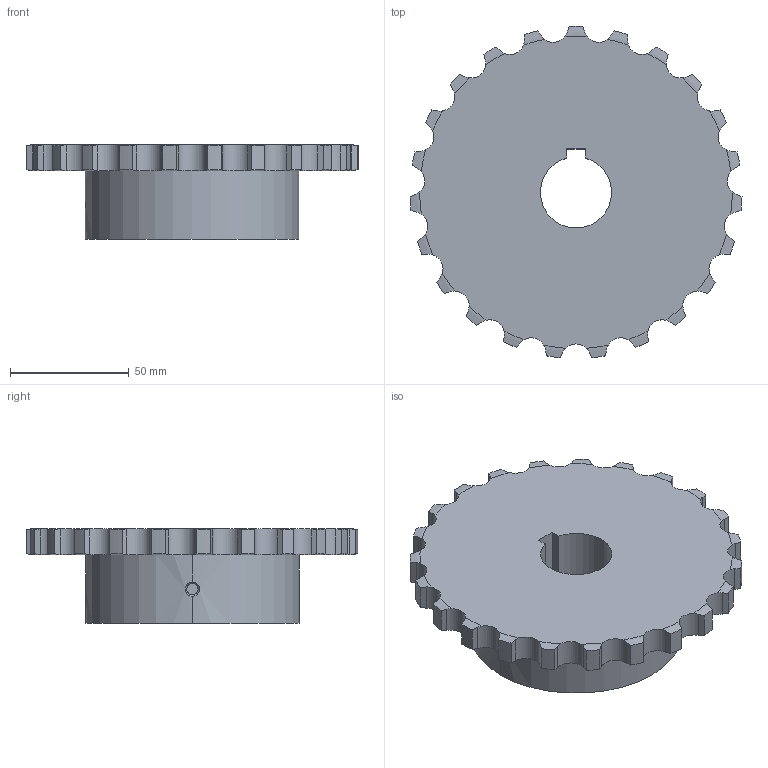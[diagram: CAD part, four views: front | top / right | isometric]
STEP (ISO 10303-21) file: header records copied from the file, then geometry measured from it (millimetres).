
FILE_DESCRIPTION((''),'2;1');
FILE_NAME('510-401-3023_PRT','2021-02-13T',('Brieden'),('Brieden'),'PRO/ENGINEER BY PARAMETRIC TECHNOLOGY CORPORATION, 2010160','PRO/ENGINEER BY PARAMETRIC TECHNOLOGY CORPORATION, 2010160','');
FILE_SCHEMA(('AUTOMOTIVE_DESIGN { 1 0 10303 214 1 1 1 1 }'));
Length unit declared in the file: millimetre
Products named in the file (1): 510-401-3023_PRT
Bounding box: 139.85 x 139.57 x 40 mm (x, y, z)
Volume: 309554 mm3; surface area: 45354.9 mm2
Topology: 1 solids, 1 shells, 159 faces, 459 edges, 304 vertices
Faces by surface type: cylinder 99, torus 46, plane 8, bspline 6
Entity records: 7746 total; most frequent: CARTESIAN_POINT 2377, ORIENTED_EDGE 918, DIRECTION 717, PRESENTATION_STYLE_ASSIGNMENT 460, STYLED_ITEM 460, CURVE_STYLE 459, EDGE_CURVE 459, VERTEX_POINT 304
